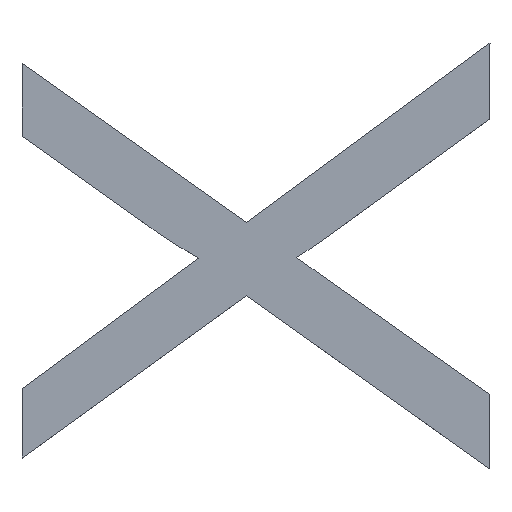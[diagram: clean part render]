
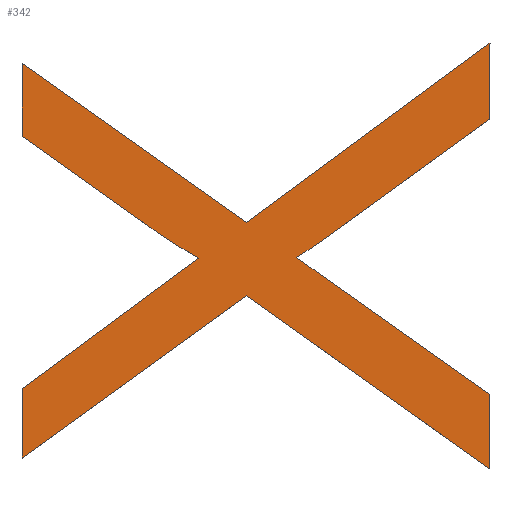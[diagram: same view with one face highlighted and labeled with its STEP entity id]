
A CAD part, top view. The second image highlights one B-rep face of the part: STEP entity #342.
In plain terms, the highlighted planar face has unit normal (0, 0, 1).
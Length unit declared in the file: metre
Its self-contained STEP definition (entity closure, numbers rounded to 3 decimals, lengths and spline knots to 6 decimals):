
#13=CIRCLE('',#354,0.001648);
#15=CIRCLE('',#365,0.00097);
#21=B_SPLINE_CURVE_WITH_KNOTS('',3,(#495,#496,#497,#498),.UNSPECIFIED.,
 .F.,.F.,(4,4),(0.,0.999995),.UNSPECIFIED.);
#24=B_SPLINE_CURVE_WITH_KNOTS('',3,(#546,#547,#548,#549),.UNSPECIFIED.,
 .F.,.F.,(4,4),(0.003036,1.),.UNSPECIFIED.);
#90=ORIENTED_EDGE('',*,*,#169,.T.);
#91=ORIENTED_EDGE('',*,*,#167,.T.);
#92=ORIENTED_EDGE('',*,*,#164,.T.);
#93=ORIENTED_EDGE('',*,*,#161,.T.);
#94=ORIENTED_EDGE('',*,*,#158,.T.);
#95=ORIENTED_EDGE('',*,*,#155,.T.);
#96=ORIENTED_EDGE('',*,*,#152,.T.);
#97=ORIENTED_EDGE('',*,*,#149,.T.);
#98=ORIENTED_EDGE('',*,*,#146,.T.);
#99=ORIENTED_EDGE('',*,*,#143,.T.);
#100=ORIENTED_EDGE('',*,*,#140,.T.);
#101=ORIENTED_EDGE('',*,*,#137,.T.);
#102=ORIENTED_EDGE('',*,*,#134,.T.);
#103=ORIENTED_EDGE('',*,*,#131,.T.);
#104=ORIENTED_EDGE('',*,*,#128,.T.);
#105=ORIENTED_EDGE('',*,*,#125,.T.);
#125=EDGE_CURVE('',#170,#173,#205,.T.);
#128=EDGE_CURVE('',#174,#170,#208,.F.);
#131=EDGE_CURVE('',#176,#174,#210,.T.);
#134=EDGE_CURVE('',#178,#176,#13,.F.);
#137=EDGE_CURVE('',#180,#178,#21,.T.);
#140=EDGE_CURVE('',#182,#180,#214,.T.);
#143=EDGE_CURVE('',#184,#182,#217,.F.);
#146=EDGE_CURVE('',#186,#184,#220,.T.);
#149=EDGE_CURVE('',#188,#186,#223,.T.);
#152=EDGE_CURVE('',#190,#188,#226,.T.);
#155=EDGE_CURVE('',#192,#190,#228,.T.);
#158=EDGE_CURVE('',#194,#192,#24,.T.);
#161=EDGE_CURVE('',#196,#194,#15,.F.);
#164=EDGE_CURVE('',#198,#196,#232,.T.);
#167=EDGE_CURVE('',#200,#198,#235,.T.);
#169=EDGE_CURVE('',#173,#200,#237,.T.);
#170=VERTEX_POINT('',#456);
#173=VERTEX_POINT('',#461);
#174=VERTEX_POINT('',#465);
#176=VERTEX_POINT('',#474);
#178=VERTEX_POINT('',#480);
#180=VERTEX_POINT('',#489);
#182=VERTEX_POINT('',#501);
#184=VERTEX_POINT('',#507);
#186=VERTEX_POINT('',#513);
#188=VERTEX_POINT('',#519);
#190=VERTEX_POINT('',#525);
#192=VERTEX_POINT('',#534);
#194=VERTEX_POINT('',#540);
#196=VERTEX_POINT('',#555);
#198=VERTEX_POINT('',#561);
#200=VERTEX_POINT('',#567);
#205=LINE('',#462,#241);
#208=LINE('',#468,#244);
#210=LINE('',#477,#246);
#214=LINE('',#504,#250);
#217=LINE('',#510,#253);
#220=LINE('',#516,#256);
#223=LINE('',#522,#259);
#226=LINE('',#528,#262);
#228=LINE('',#537,#264);
#232=LINE('',#564,#268);
#235=LINE('',#570,#271);
#237=LINE('',#573,#273);
#241=VECTOR('',#378,1.);
#244=VECTOR('',#383,1.);
#246=VECTOR('',#387,1.);
#250=VECTOR('',#401,1.);
#253=VECTOR('',#406,1.);
#256=VECTOR('',#411,1.);
#259=VECTOR('',#416,1.);
#262=VECTOR('',#421,1.);
#264=VECTOR('',#425,1.);
#268=VECTOR('',#439,1.);
#271=VECTOR('',#444,1.);
#273=VECTOR('',#448,1.);
#290=EDGE_LOOP('',(#90,#91,#92,#93,#94,#95,#96,#97,#98,#99,#100,#101,#102,
#103,#104,#105));
#308=FACE_BOUND('',#290,.T.);
#324=PLANE('',#369);
#342=ADVANCED_FACE('',(#308),#324,.F.);
#354=AXIS2_PLACEMENT_3D('',#483,#393,#394);
#365=AXIS2_PLACEMENT_3D('',#558,#433,#434);
#369=AXIS2_PLACEMENT_3D('',#574,#449,#450);
#378=DIRECTION('',(-0.804,-0.594,0.));
#383=DIRECTION('',(0.,-1.,0.));
#387=DIRECTION('',(0.81,0.586,0.));
#393=DIRECTION('',(0.,0.,-1.));
#394=DIRECTION('',(1.,0.,0.));
#401=DIRECTION('',(-0.817,0.577,0.));
#406=DIRECTION('',(0.,-1.,0.));
#411=DIRECTION('',(0.815,-0.579,0.));
#416=DIRECTION('',(0.81,0.586,0.));
#421=DIRECTION('',(0.,-1.,0.));
#425=DIRECTION('',(-0.804,-0.594,0.));
#433=DIRECTION('',(0.,0.,-1.));
#434=DIRECTION('',(1.,0.,0.));
#439=DIRECTION('',(0.815,-0.579,0.));
#444=DIRECTION('',(0.,-1.,0.));
#448=DIRECTION('',(-0.817,0.577,0.));
#449=DIRECTION('',(0.,0.,-1.));
#450=DIRECTION('',(0.,-1.,0.));
#456=CARTESIAN_POINT('',(-0.020588,0.005697,-0.03));
#461=CARTESIAN_POINT('',(-0.021074,0.005339,-0.03));
#462=CARTESIAN_POINT('',(-0.020588,0.005697,-0.03));
#465=CARTESIAN_POINT('',(-0.020588,0.005545,-0.03));
#468=CARTESIAN_POINT('',(-0.020588,0.005267,-0.03));
#474=CARTESIAN_POINT('',(-0.020913,0.00531,-0.03));
#477=CARTESIAN_POINT('',(-0.020913,0.00531,-0.03));
#480=CARTESIAN_POINT('',(-0.020975,0.005268,-0.03));
#483=CARTESIAN_POINT('',(-0.02186,0.006659,-0.03));
#489=CARTESIAN_POINT('',(-0.020919,0.005229,-0.03));
#495=CARTESIAN_POINT('',(-0.020919,0.005229,-0.03));
#496=CARTESIAN_POINT('',(-0.020938,0.005243,-0.03));
#497=CARTESIAN_POINT('',(-0.020957,0.005256,-0.03));
#498=CARTESIAN_POINT('',(-0.020975,0.005268,-0.03));
#501=CARTESIAN_POINT('',(-0.020588,0.004995,-0.03));
#504=CARTESIAN_POINT('',(-0.020588,0.004995,-0.03));
#507=CARTESIAN_POINT('',(-0.020588,0.004846,-0.03));
#510=CARTESIAN_POINT('',(-0.020588,0.005267,-0.03));
#513=CARTESIAN_POINT('',(-0.021075,0.005192,-0.03));
#516=CARTESIAN_POINT('',(-0.021075,0.005192,-0.03));
#519=CARTESIAN_POINT('',(-0.021523,0.004868,-0.03));
#522=CARTESIAN_POINT('',(-0.021523,0.004868,-0.03));
#525=CARTESIAN_POINT('',(-0.021523,0.005007,-0.03));
#528=CARTESIAN_POINT('',(-0.021523,0.005267,-0.03));
#534=CARTESIAN_POINT('',(-0.021277,0.005189,-0.03));
#537=CARTESIAN_POINT('',(-0.021277,0.005189,-0.03));
#540=CARTESIAN_POINT('',(-0.02117,0.005267,-0.03));
#546=CARTESIAN_POINT('',(-0.02117,0.005267,-0.03));
#547=CARTESIAN_POINT('',(-0.021204,0.005243,-0.03));
#548=CARTESIAN_POINT('',(-0.021239,0.005217,-0.03));
#549=CARTESIAN_POINT('',(-0.021277,0.005189,-0.03));
#555=CARTESIAN_POINT('',(-0.021281,0.005338,-0.03));
#558=CARTESIAN_POINT('',(-0.020701,0.006117,-0.03));
#561=CARTESIAN_POINT('',(-0.021523,0.005511,-0.03));
#564=CARTESIAN_POINT('',(-0.021523,0.005511,-0.03));
#567=CARTESIAN_POINT('',(-0.021523,0.005656,-0.03));
#570=CARTESIAN_POINT('',(-0.021523,0.005267,-0.03));
#573=CARTESIAN_POINT('',(-0.021074,0.005339,-0.03));
#574=CARTESIAN_POINT('',(-0.021052,0.005267,-0.03));
